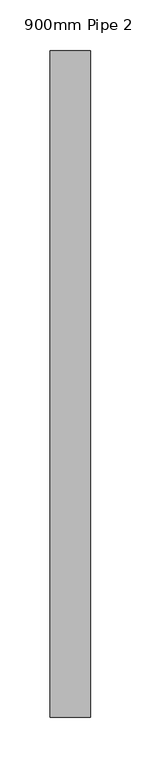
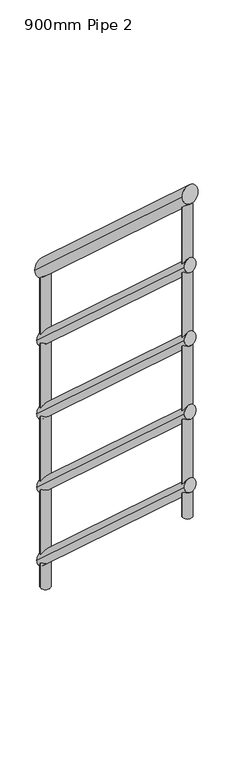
"""IFC4 building model written with IfcOpenShell, lengths in millimetres: railing geometry, 900mm Pipe 2."""

from ifc_helpers import new_model, si_unit, frame, origin, place, context, project, spatial, circle_curve, ellipse_curve, source, transform, mapped, element, save
from ifc_brep_helpers import plane_surface, cylinder_surface, advanced_brep


def railing_900mm_pipe_2_fa7be57b(model_context):
    return source(origin(), model_context, "Body", "AdvancedBrep", [
        advanced_brep(
        [(-3561.8266822, 6973.2328473, 272.9707841), (-3521.8266822, 6973.2328473, 272.9707841), (-3561.8266822, 6313.2328473, 872.9707841), (-3521.8266822, 6313.2328473, 872.9707841)],
        [
            (0, 1, ellipse_curve(frame((-3541.8266822, 6973.2328473, 272.9707841), z_axis=(0.0, 1.0, 0.0), x_axis=(0.0, 0.0, -1.0)), 27.0292159, 20.0)),
            (1, 0, ellipse_curve(frame((-3541.8266822, 6973.2328473, 272.9707841), z_axis=(0.0, 1.0, 0.0), x_axis=(0.0, 0.0, -1.0)), 27.0292159, 20.0)),
            (2, 3, ellipse_curve(frame((-3541.8266822, 6313.2328473, 872.9707841), z_axis=(0.0, -1.0, 0.0), x_axis=(0.0, 0.0, -1.0)), 27.0292159, 20.0)),
            (3, 2, ellipse_curve(frame((-3541.8266822, 6313.2328473, 872.9707841), z_axis=(0.0, -1.0, 0.0), x_axis=(0.0, 0.0, -1.0)), 27.0292159, 20.0)),
            (0, 2),
            (3, 1),
        ],
        [
            plane_surface(frame((-3541.8266822, 6973.2328473, 300.0), z_axis=(0.0, 1.0, 0.0), x_axis=(0.0, 0.0, -1.0))),
            plane_surface(frame((-3541.8266822, 6313.2328473, 900.0), z_axis=(0.0, -1.0, 0.0), x_axis=(0.0, 0.0, -1.0))),
            cylinder_surface(frame((-3541.8266822, 6959.7793914, 285.2011985), z_axis=(0.0, 0.7399400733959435, -0.6726727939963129), x_axis=(1.0, 0.0, 0.0)), 20.0),
        ],
        [
            (0, [[1, 2]]),
            (1, [[3, 4]]),
            (2, [[-1, 5, -4, 6]]),
            (2, [[-2, -6, -3, -5]]),
        ],
    ),
        advanced_brep(
        [(-3556.8266822, 6973.2328473, 79.7280881), (-3526.8266822, 6973.2328473, 79.7280881), (-3556.8266822, 6313.2328473, 679.7280881), (-3526.8266822, 6313.2328473, 679.7280881)],
        [
            (0, 1, ellipse_curve(frame((-3541.8266822, 6973.2328473, 79.7280881), z_axis=(0.0, 1.0, 0.0), x_axis=(0.0, 0.0, -1.0)), 20.2719119, 15.0)),
            (1, 0, ellipse_curve(frame((-3541.8266822, 6973.2328473, 79.7280881), z_axis=(0.0, 1.0, 0.0), x_axis=(0.0, 0.0, -1.0)), 20.2719119, 15.0)),
            (2, 3, ellipse_curve(frame((-3541.8266822, 6313.2328473, 679.7280881), z_axis=(0.0, -1.0, 0.0), x_axis=(0.0, 0.0, -1.0)), 20.2719119, 15.0)),
            (3, 2, ellipse_curve(frame((-3541.8266822, 6313.2328473, 679.7280881), z_axis=(0.0, -1.0, 0.0), x_axis=(0.0, 0.0, -1.0)), 20.2719119, 15.0)),
            (0, 2),
            (3, 1),
        ],
        [
            plane_surface(frame((-3541.8266822, 6973.2328473, 100.0), z_axis=(0.0, 1.0, 0.0), x_axis=(0.0, 0.0, -1.0))),
            plane_surface(frame((-3541.8266822, 6313.2328473, 700.0), z_axis=(0.0, -1.0, 0.0), x_axis=(0.0, 0.0, -1.0))),
            cylinder_surface(frame((-3541.8266822, 6963.1427553, 88.9008989), z_axis=(0.0, 0.7399400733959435, -0.6726727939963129), x_axis=(1.0, 0.0, 0.0)), 15.0),
        ],
        [
            (0, [[1, 2]]),
            (1, [[3, 4]]),
            (2, [[-1, 5, -4, 6]]),
            (2, [[-2, -6, -3, -5]]),
        ],
    ),
        advanced_brep(
        [(-3556.8266822, 6973.2328473, -120.2719119), (-3526.8266822, 6973.2328473, -120.2719119), (-3556.8266822, 6313.2328473, 479.7280881), (-3526.8266822, 6313.2328473, 479.7280881)],
        [
            (0, 1, ellipse_curve(frame((-3541.8266822, 6973.2328473, -120.2719119), z_axis=(0.0, 1.0, 0.0), x_axis=(0.0, 0.0, -1.0)), 20.2719119, 15.0)),
            (1, 0, ellipse_curve(frame((-3541.8266822, 6973.2328473, -120.2719119), z_axis=(0.0, 1.0, 0.0), x_axis=(0.0, 0.0, -1.0)), 20.2719119, 15.0)),
            (2, 3, ellipse_curve(frame((-3541.8266822, 6313.2328473, 479.7280881), z_axis=(0.0, -1.0, 0.0), x_axis=(0.0, 0.0, -1.0)), 20.2719119, 15.0)),
            (3, 2, ellipse_curve(frame((-3541.8266822, 6313.2328473, 479.7280881), z_axis=(0.0, -1.0, 0.0), x_axis=(0.0, 0.0, -1.0)), 20.2719119, 15.0)),
            (0, 2),
            (3, 1),
        ],
        [
            plane_surface(frame((-3541.8266822, 6973.2328473, -100.0), z_axis=(0.0, 1.0, 0.0), x_axis=(0.0, 0.0, -1.0))),
            plane_surface(frame((-3541.8266822, 6313.2328473, 500.0), z_axis=(0.0, -1.0, 0.0), x_axis=(0.0, 0.0, -1.0))),
            cylinder_surface(frame((-3541.8266822, 6963.1427553, -111.0991011), z_axis=(0.0, 0.7399400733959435, -0.6726727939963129), x_axis=(1.0, 0.0, 0.0)), 15.0),
        ],
        [
            (0, [[1, 2]]),
            (1, [[3, 4]]),
            (2, [[-1, 5, -4, 6]]),
            (2, [[-2, -6, -3, -5]]),
        ],
    ),
        advanced_brep(
        [(-3556.8266822, 6973.2328473, -320.2719119), (-3526.8266822, 6973.2328473, -320.2719119), (-3556.8266822, 6313.2328473, 279.7280881), (-3526.8266822, 6313.2328473, 279.7280881)],
        [
            (0, 1, ellipse_curve(frame((-3541.8266822, 6973.2328473, -320.2719119), z_axis=(0.0, 1.0, 0.0), x_axis=(0.0, 0.0, -1.0)), 20.2719119, 15.0)),
            (1, 0, ellipse_curve(frame((-3541.8266822, 6973.2328473, -320.2719119), z_axis=(0.0, 1.0, 0.0), x_axis=(0.0, 0.0, -1.0)), 20.2719119, 15.0)),
            (2, 3, ellipse_curve(frame((-3541.8266822, 6313.2328473, 279.7280881), z_axis=(0.0, -1.0, 0.0), x_axis=(0.0, 0.0, -1.0)), 20.2719119, 15.0)),
            (3, 2, ellipse_curve(frame((-3541.8266822, 6313.2328473, 279.7280881), z_axis=(0.0, -1.0, 0.0), x_axis=(0.0, 0.0, -1.0)), 20.2719119, 15.0)),
            (0, 2),
            (3, 1),
        ],
        [
            plane_surface(frame((-3541.8266822, 6973.2328473, -300.0), z_axis=(0.0, 1.0, 0.0), x_axis=(0.0, 0.0, -1.0))),
            plane_surface(frame((-3541.8266822, 6313.2328473, 300.0), z_axis=(0.0, -1.0, 0.0), x_axis=(0.0, 0.0, -1.0))),
            cylinder_surface(frame((-3541.8266822, 6963.1427553, -311.0991011), z_axis=(0.0, 0.7399400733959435, -0.6726727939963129), x_axis=(1.0, 0.0, 0.0)), 15.0),
        ],
        [
            (0, [[1, 2]]),
            (1, [[3, 4]]),
            (2, [[-1, 5, -4, 6]]),
            (2, [[-2, -6, -3, -5]]),
        ],
    ),
        advanced_brep(
        [(-3556.8266822, 6973.2328473, -520.2719119), (-3526.8266822, 6973.2328473, -520.2719119), (-3556.8266822, 6313.2328473, 79.7280881), (-3526.8266822, 6313.2328473, 79.7280881)],
        [
            (0, 1, ellipse_curve(frame((-3541.8266822, 6973.2328473, -520.2719119), z_axis=(0.0, 1.0, 0.0), x_axis=(0.0, 0.0, -1.0)), 20.2719119, 15.0)),
            (1, 0, ellipse_curve(frame((-3541.8266822, 6973.2328473, -520.2719119), z_axis=(0.0, 1.0, 0.0), x_axis=(0.0, 0.0, -1.0)), 20.2719119, 15.0)),
            (2, 3, ellipse_curve(frame((-3541.8266822, 6313.2328473, 79.7280881), z_axis=(0.0, -1.0, 0.0), x_axis=(0.0, 0.0, -1.0)), 20.2719119, 15.0)),
            (3, 2, ellipse_curve(frame((-3541.8266822, 6313.2328473, 79.7280881), z_axis=(0.0, -1.0, 0.0), x_axis=(0.0, 0.0, -1.0)), 20.2719119, 15.0)),
            (0, 2),
            (3, 1),
        ],
        [
            plane_surface(frame((-3541.8266822, 6973.2328473, -500.0), z_axis=(0.0, 1.0, 0.0), x_axis=(0.0, 0.0, -1.0))),
            plane_surface(frame((-3541.8266822, 6313.2328473, 100.0), z_axis=(0.0, -1.0, 0.0), x_axis=(0.0, 0.0, -1.0))),
            cylinder_surface(frame((-3541.8266822, 6963.1427553, -511.0991011), z_axis=(0.0, 0.7399400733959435, -0.6726727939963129), x_axis=(1.0, 0.0, 0.0)), 15.0),
        ],
        [
            (0, [[1, 2]]),
            (1, [[3, 4]]),
            (2, [[-1, 5, -4, 6]]),
            (2, [[-2, -6, -3, -5]]),
        ],
    ),
        advanced_brep(
        [(-3529.3266822, 6325.4194462, -11.0787263), (-3554.3266822, 6325.4194462, -11.0787263), (-3529.3266822, 6325.4194462, 834.8628419), (-3554.3266822, 6325.4194462, 834.8628419)],
        [
            (0, 1, circle_curve(frame((-3541.8266822, 6325.4194462, -11.0787263), z_axis=(0.0, 0.0, -1.0), x_axis=(-1.0, 0.0, 0.0)), 12.5)),
            (1, 0, circle_curve(frame((-3541.8266822, 6325.4194462, -11.0787263), z_axis=(0.0, 0.0, -1.0), x_axis=(-1.0, 0.0, 0.0)), 12.5)),
            (0, 2),
            (2, 3, ellipse_curve(frame((-3541.8266822, 6325.4194462, 834.8628419), z_axis=(0.0, -0.672672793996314, -0.7399400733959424), x_axis=(0.0, -0.7399400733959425, 0.6726727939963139)), 16.8932599, 12.5)),
            (3, 1),
            (3, 2, ellipse_curve(frame((-3541.8266822, 6325.4194462, 834.8628419), z_axis=(0.0, -0.672672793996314, -0.7399400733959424), x_axis=(0.0, -0.7399400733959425, 0.6726727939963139)), 16.8932599, 12.5)),
        ],
        [
            plane_surface(frame((-3554.3266822, 6325.4194462, -11.0787263), z_axis=(0.0, 0.0, -1.0), x_axis=(0.0, -1.0, 0.0))),
            cylinder_surface(frame((-3541.8266822, 6325.4194462, -11.0787263), z_axis=(0.0, 0.0, 1.0), x_axis=(-1.0, 0.0, 0.0)), 12.5),
            plane_surface(frame((-3589.0525121, 6285.0592578, 871.5539222), z_axis=(0.0, 0.672672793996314, 0.7399400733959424), x_axis=(1.0, 0.0, 0.0))),
        ],
        [
            (0, [[1, 2]]),
            (1, [[3, 4, 5, -1]]),
            (1, [[-5, 6, -3, -2]]),
            (2, [[-6, -4]]),
        ],
    ),
        advanced_brep(
        [(-3529.3266822, 6961.0462484, -588.9212737), (-3554.3266822, 6961.0462484, -588.9212737), (-3529.3266822, 6961.0462484, 257.0202945), (-3554.3266822, 6961.0462484, 257.0202945)],
        [
            (0, 1, circle_curve(frame((-3541.8266822, 6961.0462484, -588.9212737), z_axis=(0.0, 0.0, -1.0), x_axis=(-1.0, 0.0, 0.0)), 12.5)),
            (1, 0, circle_curve(frame((-3541.8266822, 6961.0462484, -588.9212737), z_axis=(0.0, 0.0, -1.0), x_axis=(-1.0, 0.0, 0.0)), 12.5)),
            (0, 2),
            (2, 3, ellipse_curve(frame((-3541.8266822, 6961.0462484, 257.0202945), z_axis=(0.0, -0.672672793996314, -0.7399400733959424), x_axis=(0.0, -0.7399400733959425, 0.6726727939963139)), 16.8932599, 12.5)),
            (3, 1),
            (3, 2, ellipse_curve(frame((-3541.8266822, 6961.0462484, 257.0202945), z_axis=(0.0, -0.672672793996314, -0.7399400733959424), x_axis=(0.0, -0.7399400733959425, 0.6726727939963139)), 16.8932599, 12.5)),
        ],
        [
            plane_surface(frame((-3554.3266822, 6961.0462484, -588.9212737), z_axis=(0.0, 0.0, -1.0), x_axis=(0.0, -1.0, 0.0))),
            cylinder_surface(frame((-3541.8266822, 6961.0462484, -588.9212737), z_axis=(0.0, 0.0, 1.0), x_axis=(-1.0, 0.0, 0.0)), 12.5),
            plane_surface(frame((-3589.0525121, 6920.68606, 293.7113748), z_axis=(0.0, 0.672672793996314, 0.7399400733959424), x_axis=(1.0, 0.0, 0.0))),
        ],
        [
            (0, [[1, 2]]),
            (1, [[3, 4, 5, -1]]),
            (1, [[-5, 6, -3, -2]]),
            (2, [[-6, -4]]),
        ],
    ),
    ])


if __name__ == "__main__":
    model = new_model("IFC4")
    model_context = context("Model", 3, world=origin())
    ifc_project = project(units=[si_unit("LENGTHUNIT", "METRE", prefix="MILLI")], contexts=[model_context])
    site = spatial("IfcSite", under=ifc_project)
    building = spatial("IfcBuilding", under=site)
    placement = place(None, origin())
    railing_900mm_pipe_2_shape = railing_900mm_pipe_2_fa7be57b(model_context)
    element("IfcRailing", 1, ObjectType="900mm Pipe 2", at=placement, inside=building, context=model_context, shape_type="MappedRepresentation", body=[
        mapped(railing_900mm_pipe_2_shape, transform((0.0, 0.0, 0.0), x_axis=(1.0, 0.0, 0.0), y_axis=(0.0, 1.0, 0.0), z_axis=(0.0, 0.0, 1.0))),
    ])
    save(model, "model.ifc")
